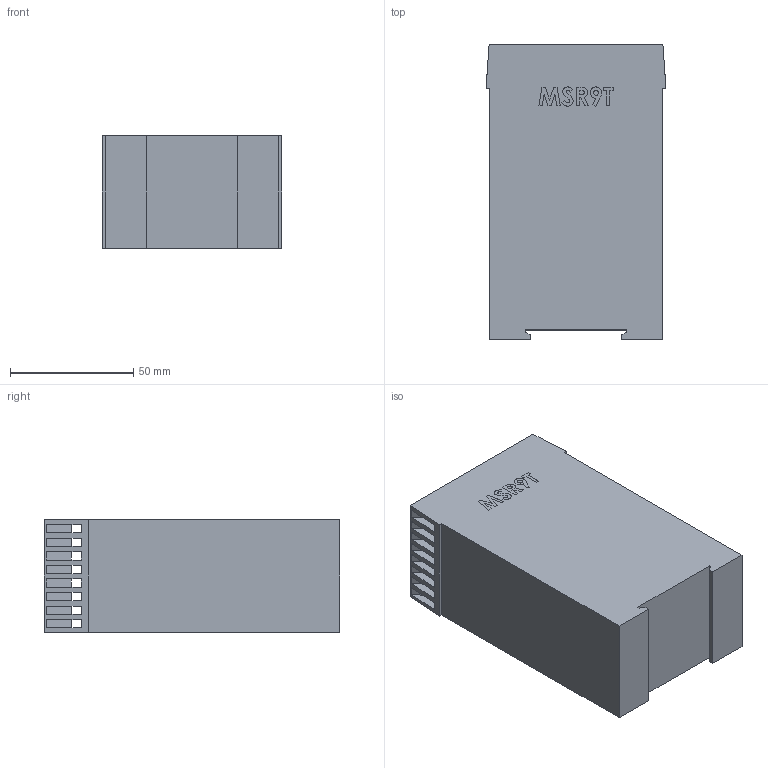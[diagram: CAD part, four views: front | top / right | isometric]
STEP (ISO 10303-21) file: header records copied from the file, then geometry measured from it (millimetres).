
FILE_DESCRIPTION((''),'2;1');
FILE_NAME('MSR9T','2007-07-03T',('jcarval'),('Rockwell Automation'),'PRO/ENGINEER BY PARAMETRIC TECHNOLOGY CORPORATION, 2005110','PRO/ENGINEER BY PARAMETRIC TECHNOLOGY CORPORATION, 2005110','');
FILE_SCHEMA(('CONFIG_CONTROL_DESIGN'));
Length unit declared in the file: millimetre
Products named in the file (1): MSR9T
Bounding box: 73 x 120 x 45.5 mm (x, y, z)
Volume: 368350.5 mm3; surface area: 44488 mm2
Topology: 1 solids, 1 shells, 892 faces, 2127 edges, 1330 vertices
Faces by surface type: plane 567, bspline 289, cylinder 36
Entity records: 35405 total; most frequent: CARTESIAN_POINT 15197, ORIENTED_EDGE 4782, DIRECTION 3091, EDGE_CURVE 2391, VECTOR 1741, LINE 1741, VERTEX_POINT 1594, EDGE_LOOP 1001
